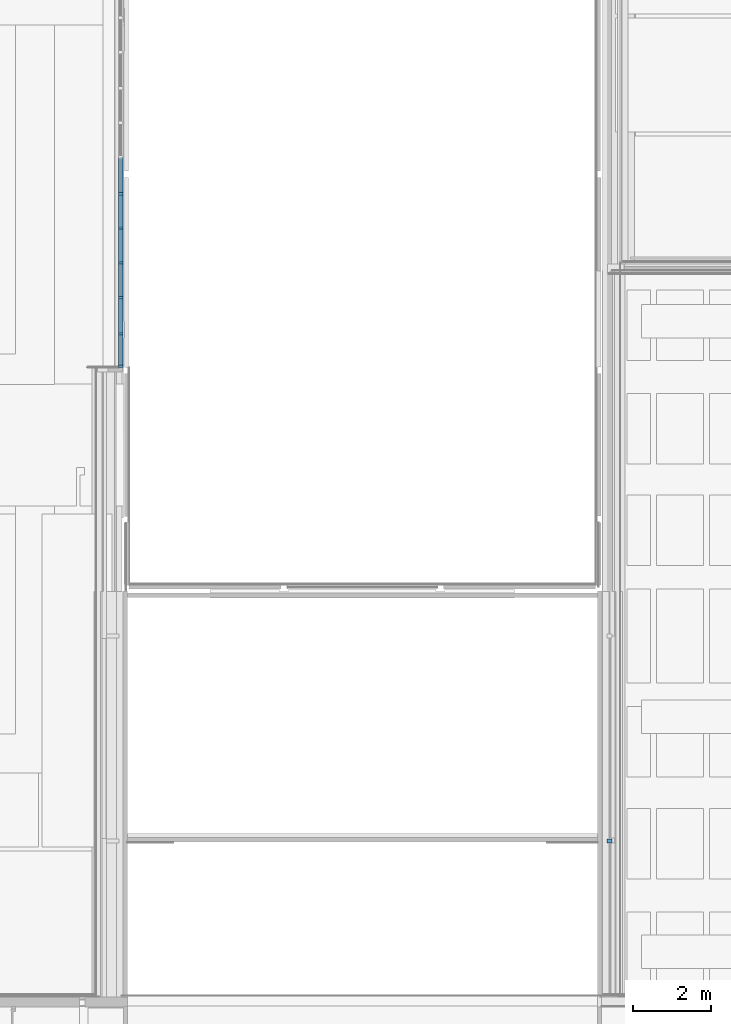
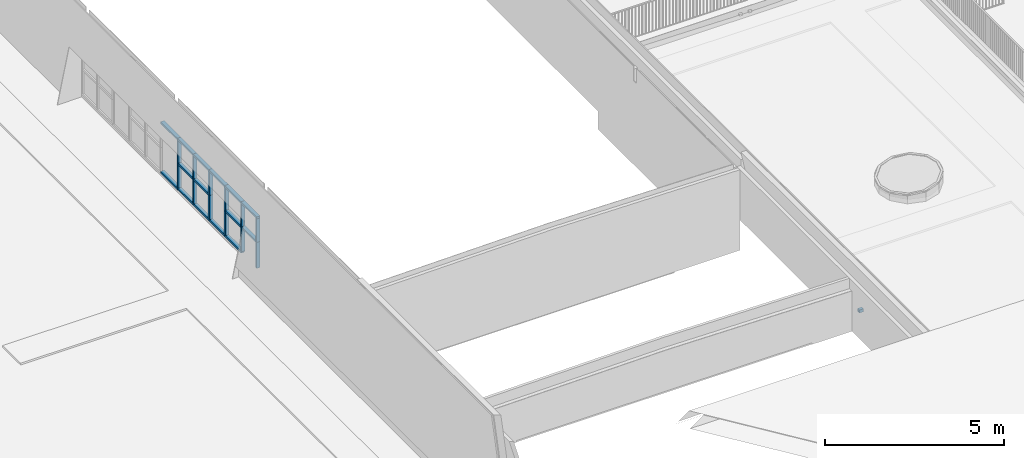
# One storey, part 6 of 66: 27 members, 1 beam, 1 element without a shape of its own.
"""IFC2X3 building model written with IfcOpenShell, lengths in millimetres."""

from ifc_helpers import new_model, entity, si_unit, converted_unit, derived_unit, direction, frame, frame_2d, origin, origin_2d_with_axis, place, context, subcontext, project, spatial, rectangle, extrude, boolean, source, transform, mapped, material, type_object, type_shapes, element, aggregate, save


model = new_model("IFC2X3")

# Units and contexts
model_context = context("Model", 3, precision=0.01, world=origin(), true_north=direction((6.12303176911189e-17, 1.0)))
body_context = subcontext(model_context, "Body", "Model", "MODEL_VIEW")
ifc_project = project(units=[si_unit("LENGTHUNIT", "METRE", prefix="MILLI"), si_unit("AREAUNIT", "SQUARE_METRE"), si_unit("VOLUMEUNIT", "CUBIC_METRE"), converted_unit("PLANEANGLEUNIT", "DEGREE", entity("IfcRatioMeasure", 0.0174532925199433), si_unit("PLANEANGLEUNIT", "RADIAN"), dimensions=[0, 0, 0, 0, 0, 0, 0]), si_unit("MASSUNIT", "GRAM", prefix="KILO"), derived_unit("MASSDENSITYUNIT", [(si_unit("MASSUNIT", "GRAM", prefix="KILO"), 1), (si_unit("LENGTHUNIT", "METRE"), -3)]), derived_unit("MOMENTOFINERTIAUNIT", [(si_unit("LENGTHUNIT", "METRE"), 4)]), si_unit("TIMEUNIT", "SECOND"), si_unit("FREQUENCYUNIT", "HERTZ"), si_unit("THERMODYNAMICTEMPERATUREUNIT", "DEGREE_CELSIUS"), derived_unit("THERMALTRANSMITTANCEUNIT", [(si_unit("MASSUNIT", "GRAM", prefix="KILO"), 1), (si_unit("THERMODYNAMICTEMPERATUREUNIT", "KELVIN"), -1), (si_unit("TIMEUNIT", "SECOND"), -3)]), derived_unit("VOLUMETRICFLOWRATEUNIT", [(si_unit("LENGTHUNIT", "METRE"), 3), (si_unit("TIMEUNIT", "SECOND"), -1)]), si_unit("ELECTRICCURRENTUNIT", "AMPERE"), si_unit("ELECTRICVOLTAGEUNIT", "VOLT"), si_unit("POWERUNIT", "WATT"), si_unit("FORCEUNIT", "NEWTON", prefix="KILO"), si_unit("ILLUMINANCEUNIT", "LUX"), si_unit("LUMINOUSFLUXUNIT", "LUMEN"), si_unit("LUMINOUSINTENSITYUNIT", "CANDELA"), derived_unit("USERDEFINED", [(si_unit("MASSUNIT", "GRAM", prefix="KILO"), -1), (si_unit("LENGTHUNIT", "METRE"), -2), (si_unit("TIMEUNIT", "SECOND"), 3), (si_unit("LUMINOUSFLUXUNIT", "LUMEN"), 1)]), derived_unit("LINEARVELOCITYUNIT", [(si_unit("LENGTHUNIT", "METRE"), 1), (si_unit("TIMEUNIT", "SECOND"), -1)]), si_unit("PRESSUREUNIT", "PASCAL"), derived_unit("USERDEFINED", [(si_unit("LENGTHUNIT", "METRE"), -2), (si_unit("MASSUNIT", "GRAM", prefix="KILO"), 1), (si_unit("TIMEUNIT", "SECOND"), -2)]), derived_unit("LINEARFORCEUNIT", [(si_unit("MASSUNIT", "GRAM", prefix="KILO"), 1), (si_unit("LENGTHUNIT", "METRE"), 1), (si_unit("TIMEUNIT", "SECOND"), -2), (si_unit("LENGTHUNIT", "METRE"), -1)]), derived_unit("PLANARFORCEUNIT", [(si_unit("MASSUNIT", "GRAM", prefix="KILO"), 1), (si_unit("LENGTHUNIT", "METRE"), 1), (si_unit("TIMEUNIT", "SECOND"), -2), (si_unit("LENGTHUNIT", "METRE"), -2)])], contexts=[model_context])

# Site, building, storey
site_placement = place(None, origin())
site = spatial("IfcSite", under=ifc_project, at=site_placement, Name="Default", CompositionType="ELEMENT")
building_placement = place(site_placement, origin())
building = spatial("IfcBuilding", under=site, at=building_placement, Name="-", CompositionType="ELEMENT")
storey_placement = place(building_placement, frame((0.0, 0.0, 3070.0)))
storey = spatial("IfcBuildingStorey", under=building, at=storey_placement, Name="01 eerste verdieping", CompositionType="ELEMENT", Elevation=3070.00000000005)

# Curtain wall, members
curtain_wall_type = type_object("IfcCurtainWallType", Name="Curtain Wall:NLRS_31_WIN_UN_houten kozijn vrij indeelbaar_gen_aly", PredefinedType="NOTDEFINED")
curtain_wall_placement = place(storey_placement, frame((0.0, 0.0, -3070.0)))
curtain_wall = element("IfcCurtainWall", 1, at=curtain_wall_placement, inside=storey, type_object=curtain_wall_type, Name="Curtain Wall:NLRS_31_WIN_UN_houten kozijn vrij indeelbaar_gen_aly", ObjectType="Curtain Wall:NLRS_31_WIN_UN_houten kozijn vrij indeelbaar_gen_aly")
ifc_material_1 = material(Name="NLRS_i3_hout_Loofhout (hardhout) RAL 9005")
member_type_1 = type_object("IfcMemberType", Name="Rectangular Mullion:67x114 zwart", PredefinedType="MULLION", material=ifc_material_1)
shared_shape_1 = source(origin(), body_context, "Body", "SweptSolid", [
    extrude(rectangle(XDim=114.0, YDim=67.0, at=origin_2d_with_axis()), frame((-33.5, 0.0, -802.972353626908), z_axis=(0.0, 0.0, 1.0), x_axis=(0.0, -1.0, 0.0)), (0.0, 0.0, 1.0), 802.972353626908),
])
type_shapes(member_type_1, [shared_shape_1])
member_1_placement = place(storey_placement, frame((28618.0, 26473.9768827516, 2038.30371120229), z_axis=(0.0, 0.0, 1.0), x_axis=(0.0, -1.0, 0.0)))
member_1 = element("IfcMember", 2, at=member_1_placement, type_object=member_type_1, material=ifc_material_1, Name="Rectangular Mullion:67x114 zwart", ObjectType="Rectangular Mullion:67x114 zwart", context=body_context, shape_type="MappedRepresentation", body=[
    mapped(shared_shape_1, transform((0.0, 0.0, 0.0), scale=1.0)),
])
member_type_2 = type_object("IfcMemberType", Name="Rectangular Mullion:67x114 zwart", PredefinedType="MULLION", material=ifc_material_1)
shared_shape_2 = source(origin(), body_context, "Body", "SweptSolid", [
    extrude(rectangle(XDim=114.0, YDim=67.0, at=origin_2d_with_axis()), frame((-33.5, 0.0, -889.972353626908), z_axis=(0.0, 0.0, 1.0), x_axis=(0.0, -1.0, 0.0)), (0.0, 0.0, 1.0), 889.972353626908),
])
type_shapes(member_type_2, [shared_shape_2])
member_2_placement = place(storey_placement, frame((28618.0, 26473.9768827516, 1235.33135757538), z_axis=(0.0, 0.0, 1.0), x_axis=(0.0, -1.0, 0.0)))
member_2 = element("IfcMember", 3, at=member_2_placement, type_object=member_type_2, material=ifc_material_1, Name="Rectangular Mullion:67x114 zwart", ObjectType="Rectangular Mullion:67x114 zwart", context=body_context, shape_type="MappedRepresentation", body=[
    mapped(shared_shape_2, transform((0.0, 0.0, 0.0), scale=1.0)),
])
member_type_3 = type_object("IfcMemberType", Name="Rectangular Mullion:67x114 zwart", PredefinedType="MULLION", material=ifc_material_1)
shared_shape_3 = source(origin(), body_context, "Body", "SweptSolid", [
    extrude(rectangle(XDim=114.0, YDim=67.0, at=origin_2d_with_axis()), frame((0.0, 0.0, -768.192821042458), z_axis=(0.0, 0.0, 1.0), x_axis=(0.0, -1.0, 0.0)), (0.0, 0.0, 1.0), 768.192821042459),
])
type_shapes(member_type_3, [shared_shape_3])
member_3_placement = place(storey_placement, frame((28618.0, 27309.1697037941, 1235.33135757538), z_axis=(0.0, 1.0, 0.0), x_axis=(0.0, 0.0, 1.0)))
member_3 = element("IfcMember", 4, at=member_3_placement, type_object=member_type_3, material=ifc_material_1, Name="Rectangular Mullion:67x114 zwart", ObjectType="Rectangular Mullion:67x114 zwart", context=body_context, shape_type="MappedRepresentation", body=[
    mapped(shared_shape_3, transform((0.0, 0.0, 0.0), scale=1.0)),
])
member_type_4 = type_object("IfcMemberType", Name="Rectangular Mullion:67x114 zwart", PredefinedType="MULLION", material=ifc_material_1)
shared_shape_4 = source(origin(), body_context, "Body", "SweptSolid", [
    extrude(rectangle(XDim=114.0, YDim=67.0, at=origin_2d_with_axis()), frame((-33.5, 0.0, -880.0), z_axis=(0.0, 0.0, 1.0), x_axis=(0.0, -1.0, 0.0)), (0.0, 0.0, 1.0), 879.999999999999),
])
type_shapes(member_type_4, [shared_shape_4])
member_4_placement = place(storey_placement, frame((28618.0, 30909.055345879, 2105.30371120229), z_axis=(0.0, 1.0, 0.0), x_axis=(0.0, 0.0, 1.0)))
member_4 = element("IfcMember", 5, at=member_4_placement, type_object=member_type_4, material=ifc_material_1, Name="Rectangular Mullion:67x114 zwart", ObjectType="Rectangular Mullion:67x114 zwart", context=body_context, shape_type="MappedRepresentation", body=[
    mapped(shared_shape_4, transform((0.0, 0.0, 0.0), scale=1.0)),
])
member_5_placement = place(storey_placement, frame((28618.0, 30029.055345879, 2105.30371120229), z_axis=(0.0, 1.0, 0.0), x_axis=(0.0, 0.0, 1.0)))
member_5 = element("IfcMember", 6, at=member_5_placement, type_object=member_type_4, material=ifc_material_1, Name="Rectangular Mullion:67x114 zwart", ObjectType="Rectangular Mullion:67x114 zwart", context=body_context, shape_type="MappedRepresentation", body=[
    mapped(shared_shape_4, transform((0.0, 0.0, 0.0), scale=1.0)),
])
member_type_5 = type_object("IfcMemberType", Name="Rectangular Mullion:67x114 zwart", PredefinedType="MULLION", material=ifc_material_1)
shared_shape_5 = source(origin(), body_context, "Body", "SweptSolid", [
    extrude(rectangle(XDim=114.0, YDim=67.0, at=origin_2d_with_axis()), frame((0.0, 0.0, -822.972353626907), z_axis=(0.0, 0.0, 1.0), x_axis=(0.0, -1.0, 0.0)), (0.0, 0.0, 1.0), 822.972353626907),
])
type_shapes(member_type_5, [shared_shape_5])
member_6_placement = place(storey_placement, frame((28618.0, 30909.055345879, 412.359003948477), z_axis=(0.0, 0.0, -1.0), x_axis=(0.0, 1.0, 0.0)))
member_6 = element("IfcMember", 7, at=member_6_placement, type_object=member_type_5, material=ifc_material_1, Name="Rectangular Mullion:67x114 zwart", ObjectType="Rectangular Mullion:67x114 zwart", context=body_context, shape_type="MappedRepresentation", body=[
    mapped(shared_shape_5, transform((0.0, 0.0, 0.0), scale=1.0)),
])
member_7_placement = place(storey_placement, frame((28618.0, 30029.055345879, 412.359003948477), z_axis=(0.0, 0.0, -1.0), x_axis=(0.0, 1.0, 0.0)))
member_7 = element("IfcMember", 8, at=member_7_placement, type_object=member_type_5, material=ifc_material_1, Name="Rectangular Mullion:67x114 zwart", ObjectType="Rectangular Mullion:67x114 zwart", context=body_context, shape_type="MappedRepresentation", body=[
    mapped(shared_shape_5, transform((0.0, 0.0, 0.0), scale=1.0)),
])
member_8_placement = place(storey_placement, frame((28618.0, 29149.055345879, 412.359003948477), z_axis=(0.0, 0.0, -1.0), x_axis=(0.0, 1.0, 0.0)))
member_8 = element("IfcMember", 9, at=member_8_placement, type_object=member_type_5, material=ifc_material_1, Name="Rectangular Mullion:67x114 zwart", ObjectType="Rectangular Mullion:67x114 zwart", context=body_context, shape_type="MappedRepresentation", body=[
    mapped(shared_shape_5, transform((0.0, 0.0, 0.0), scale=1.0)),
])
member_9_placement = place(storey_placement, frame((28618.0, 28257.3625248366, 412.359003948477), z_axis=(0.0, 0.0, -1.0), x_axis=(0.0, 1.0, 0.0)))
member_9 = element("IfcMember", 10, at=member_9_placement, type_object=member_type_5, material=ifc_material_1, Name="Rectangular Mullion:67x114 zwart", ObjectType="Rectangular Mullion:67x114 zwart", context=body_context, shape_type="MappedRepresentation", body=[
    mapped(shared_shape_5, transform((0.0, 0.0, 0.0), scale=1.0)),
])
member_10_placement = place(storey_placement, frame((28618.0, 27342.6697037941, 412.359003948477), z_axis=(0.0, 0.0, -1.0), x_axis=(0.0, 1.0, 0.0)))
member_10 = element("IfcMember", 11, at=member_10_placement, type_object=member_type_5, material=ifc_material_1, Name="Rectangular Mullion:67x114 zwart", ObjectType="Rectangular Mullion:67x114 zwart", context=body_context, shape_type="MappedRepresentation", body=[
    mapped(shared_shape_5, transform((0.0, 0.0, 0.0), scale=1.0)),
])
member_type_6 = type_object("IfcMemberType", Name="Rectangular Mullion:67x114 zwart", PredefinedType="MULLION", material=ifc_material_1)
shared_shape_6 = source(origin(), body_context, "Body", "SweptSolid", [
    extrude(rectangle(XDim=114.0, YDim=67.0, at=origin_2d_with_axis()), frame((0.0, 0.0, -802.972353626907), z_axis=(0.0, 0.0, 1.0), x_axis=(0.0, -1.0, 0.0)), (0.0, 0.0, 1.0), 802.972353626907),
])
type_shapes(member_type_6, [shared_shape_6])
member_11_placement = place(storey_placement, frame((28618.0, 30909.055345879, 1235.33135757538), z_axis=(0.0, 0.0, -1.0), x_axis=(0.0, 1.0, 0.0)))
member_11 = element("IfcMember", 12, at=member_11_placement, type_object=member_type_6, material=ifc_material_1, Name="Rectangular Mullion:67x114 zwart", ObjectType="Rectangular Mullion:67x114 zwart", context=body_context, shape_type="MappedRepresentation", body=[
    mapped(shared_shape_6, transform((0.0, 0.0, 0.0), scale=1.0)),
])
member_12_placement = place(storey_placement, frame((28618.0, 30029.055345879, 1235.33135757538), z_axis=(0.0, 0.0, -1.0), x_axis=(0.0, 1.0, 0.0)))
member_12 = element("IfcMember", 13, at=member_12_placement, type_object=member_type_6, material=ifc_material_1, Name="Rectangular Mullion:67x114 zwart", ObjectType="Rectangular Mullion:67x114 zwart", context=body_context, shape_type="MappedRepresentation", body=[
    mapped(shared_shape_6, transform((0.0, 0.0, 0.0), scale=1.0)),
])
member_13_placement = place(storey_placement, frame((28618.0, 29149.055345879, 1235.33135757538), z_axis=(0.0, 0.0, -1.0), x_axis=(0.0, 1.0, 0.0)))
member_13 = element("IfcMember", 14, at=member_13_placement, type_object=member_type_6, material=ifc_material_1, Name="Rectangular Mullion:67x114 zwart", ObjectType="Rectangular Mullion:67x114 zwart", context=body_context, shape_type="MappedRepresentation", body=[
    mapped(shared_shape_6, transform((0.0, 0.0, 0.0), scale=1.0)),
])
member_14_placement = place(storey_placement, frame((28618.0, 28257.3625248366, 1235.33135757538), z_axis=(0.0, 0.0, -1.0), x_axis=(0.0, 1.0, 0.0)))
member_14 = element("IfcMember", 15, at=member_14_placement, type_object=member_type_6, material=ifc_material_1, Name="Rectangular Mullion:67x114 zwart", ObjectType="Rectangular Mullion:67x114 zwart", context=body_context, shape_type="MappedRepresentation", body=[
    mapped(shared_shape_6, transform((0.0, 0.0, 0.0), scale=1.0)),
])
member_15_placement = place(storey_placement, frame((28618.0, 27342.6697037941, 1235.33135757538), z_axis=(0.0, 0.0, -1.0), x_axis=(0.0, 1.0, 0.0)))
member_15 = element("IfcMember", 16, at=member_15_placement, type_object=member_type_6, material=ifc_material_1, Name="Rectangular Mullion:67x114 zwart", ObjectType="Rectangular Mullion:67x114 zwart", context=body_context, shape_type="MappedRepresentation", body=[
    mapped(shared_shape_6, transform((0.0, 0.0, 0.0), scale=1.0)),
])
member_type_7 = type_object("IfcMemberType", Name="Rectangular Mullion:67x114 zwart", PredefinedType="MULLION", material=ifc_material_1)
shared_shape_7 = source(origin(), body_context, "Body", "SweptSolid", [
    extrude(rectangle(XDim=114.0, YDim=67.0, at=origin_2d_with_axis()), frame((-33.5, 0.0, -880.0), z_axis=(0.0, 0.0, 1.0), x_axis=(0.0, -1.0, 0.0)), (0.0, 0.0, 1.0), 879.999999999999),
])
type_shapes(member_type_7, [shared_shape_7])
member_16_placement = place(storey_placement, frame((28618.0, 30029.055345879, 345.359003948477), z_axis=(0.0, -1.0, 0.0), x_axis=(0.0, 0.0, -1.0)))
member_16 = element("IfcMember", 17, at=member_16_placement, type_object=member_type_7, material=ifc_material_1, Name="Rectangular Mullion:67x114 zwart", ObjectType="Rectangular Mullion:67x114 zwart", context=body_context, shape_type="MappedRepresentation", body=[
    mapped(shared_shape_7, transform((0.0, 0.0, 0.0), scale=1.0)),
])
member_17_placement = place(storey_placement, frame((28618.0, 29149.055345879, 345.359003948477), z_axis=(0.0, -1.0, 0.0), x_axis=(0.0, 0.0, -1.0)))
member_17 = element("IfcMember", 18, at=member_17_placement, type_object=member_type_7, material=ifc_material_1, Name="Rectangular Mullion:67x114 zwart", ObjectType="Rectangular Mullion:67x114 zwart", context=body_context, shape_type="MappedRepresentation", body=[
    mapped(shared_shape_7, transform((0.0, 0.0, 0.0), scale=1.0)),
])
member_type_8 = type_object("IfcMemberType", Name="Rectangular Mullion:67x114 zwart", PredefinedType="MULLION", material=ifc_material_1)
shared_shape_8 = source(origin(), body_context, "Body", "SweptSolid", [
    extrude(rectangle(XDim=114.0, YDim=67.0, at=origin_2d_with_axis()), frame((0.0, 0.0, -813.0), z_axis=(0.0, 0.0, 1.0), x_axis=(0.0, -1.0, 0.0)), (0.0, 0.0, 1.0), 812.999999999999),
])
type_shapes(member_type_8, [shared_shape_8])
member_18_placement = place(storey_placement, frame((28618.0, 30875.555345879, 1235.33135757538), z_axis=(0.0, 1.0, 0.0), x_axis=(0.0, 0.0, 1.0)))
member_18 = element("IfcMember", 19, at=member_18_placement, type_object=member_type_8, material=ifc_material_1, Name="Rectangular Mullion:67x114 zwart", ObjectType="Rectangular Mullion:67x114 zwart", context=body_context, shape_type="MappedRepresentation", body=[
    mapped(shared_shape_8, transform((0.0, 0.0, 0.0), scale=1.0)),
])
member_19_placement = place(storey_placement, frame((28618.0, 29995.555345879, 1235.33135757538), z_axis=(0.0, 1.0, 0.0), x_axis=(0.0, 0.0, 1.0)))
member_19 = element("IfcMember", 20, at=member_19_placement, type_object=member_type_8, material=ifc_material_1, Name="Rectangular Mullion:67x114 zwart", ObjectType="Rectangular Mullion:67x114 zwart", context=body_context, shape_type="MappedRepresentation", body=[
    mapped(shared_shape_8, transform((0.0, 0.0, 0.0), scale=1.0)),
])
member_type_9 = type_object("IfcMemberType", Name="Rectangular Mullion:67x114 zwart", PredefinedType="MULLION", material=ifc_material_1)
shared_shape_9 = source(origin(), body_context, "Body", "SweptSolid", [
    extrude(rectangle(XDim=114.0, YDim=67.0, at=origin_2d_with_axis()), frame((-33.5, 0.0, -940.0), z_axis=(0.0, 0.0, 1.0), x_axis=(0.0, -1.0, 0.0)), (0.0, 0.0, 1.0), 939.999999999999),
])
type_shapes(member_type_9, [shared_shape_9])
member_20_placement = place(storey_placement, frame((28618.0, 31849.055345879, 2105.30371120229), z_axis=(0.0, 1.0, 0.0), x_axis=(0.0, 0.0, 1.0)))
member_20 = element("IfcMember", 21, at=member_20_placement, type_object=member_type_9, material=ifc_material_1, Name="Rectangular Mullion:67x114 zwart", ObjectType="Rectangular Mullion:67x114 zwart", context=body_context, shape_type="MappedRepresentation", body=[
    mapped(shared_shape_9, transform((0.0, 0.0, 0.0), scale=1.0)),
])
member_type_10 = type_object("IfcMemberType", Name="Rectangular Mullion:67x114 zwart", PredefinedType="MULLION", material=ifc_material_1)
shared_shape_10 = source(origin(), body_context, "Body", "SweptSolid", [
    extrude(rectangle(XDim=114.0, YDim=67.0, at=origin_2d_with_axis()), frame((-33.5, 0.0, -940.0), z_axis=(0.0, 0.0, 1.0), x_axis=(0.0, -1.0, 0.0)), (0.0, 0.0, 1.0), 939.999999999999),
])
type_shapes(member_type_10, [shared_shape_10])
member_21_placement = place(storey_placement, frame((28618.0, 30909.055345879, 345.359003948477), z_axis=(0.0, -1.0, 0.0), x_axis=(0.0, 0.0, -1.0)))
member_21 = element("IfcMember", 22, at=member_21_placement, type_object=member_type_10, material=ifc_material_1, Name="Rectangular Mullion:67x114 zwart", ObjectType="Rectangular Mullion:67x114 zwart", context=body_context, shape_type="MappedRepresentation", body=[
    mapped(shared_shape_10, transform((0.0, 0.0, 0.0), scale=1.0)),
])
member_type_11 = type_object("IfcMemberType", Name="Rectangular Mullion:67x114 zwart", PredefinedType="MULLION", material=ifc_material_1)
shared_shape_11 = source(origin(), body_context, "Body", "SweptSolid", [
    extrude(rectangle(XDim=114.0, YDim=67.0, at=origin_2d_with_axis()), frame((-33.5, 0.0, -891.692821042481), z_axis=(0.0, 0.0, 1.0), x_axis=(0.0, -1.0, 0.0)), (0.0, 0.0, 1.0), 891.692821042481),
])
type_shapes(member_type_11, [shared_shape_11])
member_22_placement = place(storey_placement, frame((28618.0, 29149.055345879, 2105.30371120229), z_axis=(0.0, 1.0, 0.0), x_axis=(0.0, 0.0, 1.0)))
member_22 = element("IfcMember", 23, at=member_22_placement, type_object=member_type_11, material=ifc_material_1, Name="Rectangular Mullion:67x114 zwart", ObjectType="Rectangular Mullion:67x114 zwart", context=body_context, shape_type="MappedRepresentation", body=[
    mapped(shared_shape_11, transform((0.0, 0.0, 0.0), scale=1.0)),
])
member_type_12 = type_object("IfcMemberType", Name="Rectangular Mullion:67x114 zwart", PredefinedType="MULLION", material=ifc_material_1)
shared_shape_12 = source(origin(), body_context, "Body", "SweptSolid", [
    extrude(rectangle(XDim=114.0, YDim=67.0, at=origin_2d_with_axis()), frame((-33.5, 0.0, -914.692821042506), z_axis=(0.0, 0.0, 1.0), x_axis=(0.0, -1.0, 0.0)), (0.0, 0.0, 1.0), 914.692821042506),
])
type_shapes(member_type_12, [shared_shape_12])
member_23_placement = place(storey_placement, frame((28618.0, 28257.3625248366, 2105.30371120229), z_axis=(0.0, 1.0, 0.0), x_axis=(0.0, 0.0, 1.0)))
member_23 = element("IfcMember", 24, at=member_23_placement, type_object=member_type_12, material=ifc_material_1, Name="Rectangular Mullion:67x114 zwart", ObjectType="Rectangular Mullion:67x114 zwart", context=body_context, shape_type="MappedRepresentation", body=[
    mapped(shared_shape_12, transform((0.0, 0.0, 0.0), scale=1.0)),
])
member_type_13 = type_object("IfcMemberType", Name="Rectangular Mullion:67x114 zwart", PredefinedType="MULLION", material=ifc_material_1)
shared_shape_13 = source(origin(), body_context, "Body", "SweptSolid", [
    extrude(rectangle(XDim=114.0, YDim=67.0, at=origin_2d_with_axis()), frame((-33.5, 0.0, -891.692821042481), z_axis=(0.0, 0.0, 1.0), x_axis=(0.0, -1.0, 0.0)), (0.0, 0.0, 1.0), 891.692821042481),
])
type_shapes(member_type_13, [shared_shape_13])
member_24_placement = place(storey_placement, frame((28618.0, 28257.3625248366, 345.359003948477), z_axis=(0.0, -1.0, 0.0), x_axis=(0.0, 0.0, -1.0)))
member_24 = element("IfcMember", 25, at=member_24_placement, type_object=member_type_13, material=ifc_material_1, Name="Rectangular Mullion:67x114 zwart", ObjectType="Rectangular Mullion:67x114 zwart", context=body_context, shape_type="MappedRepresentation", body=[
    mapped(shared_shape_13, transform((0.0, 0.0, 0.0), scale=1.0)),
])
member_type_14 = type_object("IfcMemberType", Name="Rectangular Mullion:67x114 zwart", PredefinedType="MULLION", material=ifc_material_1)
shared_shape_14 = source(origin(), body_context, "Body", "SweptSolid", [
    extrude(rectangle(XDim=114.0, YDim=67.0, at=origin_2d_with_axis()), frame((-33.5, 0.0, -868.69282104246), z_axis=(0.0, 0.0, 1.0), x_axis=(0.0, -1.0, 0.0)), (0.0, 0.0, 1.0), 868.69282104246),
])
type_shapes(member_type_14, [shared_shape_14])
member_25_placement = place(storey_placement, frame((28618.0, 27342.6697037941, 2105.30371120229), z_axis=(0.0, 1.0, 0.0), x_axis=(0.0, 0.0, 1.0)))
member_25 = element("IfcMember", 26, at=member_25_placement, type_object=member_type_14, material=ifc_material_1, Name="Rectangular Mullion:67x114 zwart", ObjectType="Rectangular Mullion:67x114 zwart", context=body_context, shape_type="MappedRepresentation", body=[
    mapped(shared_shape_14, transform((0.0, 0.0, 0.0), scale=1.0)),
])
member_type_15 = type_object("IfcMemberType", Name="Rectangular Mullion:67x114 zwart", PredefinedType="MULLION", material=ifc_material_1)
shared_shape_15 = source(origin(), body_context, "Body", "SweptSolid", [
    extrude(rectangle(XDim=114.0, YDim=67.0, at=origin_2d_with_axis()), frame((-33.5, 0.0, -914.692821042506), z_axis=(0.0, 0.0, 1.0), x_axis=(0.0, -1.0, 0.0)), (0.0, 0.0, 1.0), 914.692821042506),
])
type_shapes(member_type_15, [shared_shape_15])
member_26_placement = place(storey_placement, frame((28618.0, 27342.6697037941, 345.359003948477), z_axis=(0.0, -1.0, 0.0), x_axis=(0.0, 0.0, -1.0)))
member_26 = element("IfcMember", 27, at=member_26_placement, type_object=member_type_15, material=ifc_material_1, Name="Rectangular Mullion:67x114 zwart", ObjectType="Rectangular Mullion:67x114 zwart", context=body_context, shape_type="MappedRepresentation", body=[
    mapped(shared_shape_15, transform((0.0, 0.0, 0.0), scale=1.0)),
])
member_type_16 = type_object("IfcMemberType", Name="Rectangular Mullion:67x114 zwart", PredefinedType="MULLION", material=ifc_material_1)
shared_shape_16 = source(origin(), body_context, "Body", "SweptSolid", [
    extrude(rectangle(XDim=114.0, YDim=67.0, at=origin_2d_with_axis()), frame((0.0, 0.0, -847.692821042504), z_axis=(0.0, 0.0, 1.0), x_axis=(0.0, -1.0, 0.0)), (0.0, 0.0, 1.0), 847.692821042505),
])
type_shapes(member_type_16, [shared_shape_16])
member_27_placement = place(storey_placement, frame((28618.0, 28223.8625248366, 1235.33135757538), z_axis=(0.0, 1.0, 0.0), x_axis=(0.0, 0.0, 1.0)))
member_27 = element("IfcMember", 28, at=member_27_placement, type_object=member_type_16, material=ifc_material_1, Name="Rectangular Mullion:67x114 zwart", ObjectType="Rectangular Mullion:67x114 zwart", context=body_context, shape_type="MappedRepresentation", body=[
    mapped(shared_shape_16, transform((0.0, 0.0, 0.0), scale=1.0)),
])
aggregate(curtain_wall, [member_1, member_2, member_3, member_20, member_4, member_21, member_6, member_11, member_5, member_16, member_18, member_7, member_12, member_22, member_17, member_19, member_8, member_13, member_23, member_24, member_9, member_14, member_25, member_26, member_27, member_10, member_15])

# Beam
ifc_material_2 = material(Name="NLRS_h3_staal_verzinkt")
beam_type = type_object("IfcBeamType", Name="NLRS_28_SF_UN_kokerprofielen_gen_aly:K100/4", PredefinedType="NOTDEFINED")
beam_placement = place(storey_placement, frame((41164.1645167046, 14386.3202504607, 1919.0), z_axis=(0.0, 0.0, 1.0), x_axis=(-1.0, 0.0, 0.0)))
element("IfcBeam", 29, at=beam_placement, inside=storey, type_object=beam_type, material=ifc_material_2, Name="NLRS_28_SF_UN_kokerprofielen_gen_aly:K100/4", ObjectType="NLRS_28_SF_UN_kokerprofielen_gen_aly:K100/4", context=body_context, shape_type="CSG", body=[
    boolean("DIFFERENCE", extrude(rectangle(XDim=100.0, YDim=100.000000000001, at=frame_2d((-5.43565192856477e-13, -1.08357767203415e-12), x_axis=(1.0, 0.0))), frame((0.0, 0.0, -50.0), z_axis=(1.0, 0.0, 0.0), x_axis=(0.0, 0.0, -1.0)), (0.0, 0.0, 1.0), 133.079701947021), extrude(rectangle(XDim=91.9999999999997, YDim=91.9999999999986, at=frame_2d((-1.08357767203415e-12, 5.40012479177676e-13), x_axis=(0.0, 1.0))), frame((0.0, 0.0, -50.0), z_axis=(1.0, 0.0, 0.0), x_axis=(0.0, -1.0, 0.0)), (0.0, 0.0, 1.0), 133.079701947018)),
])

save(model, "model.ifc")
